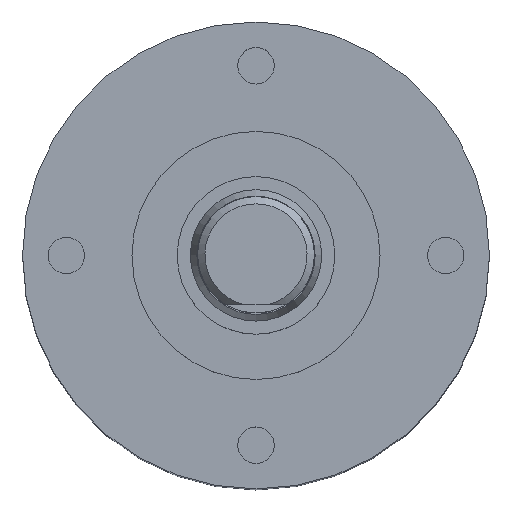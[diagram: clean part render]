
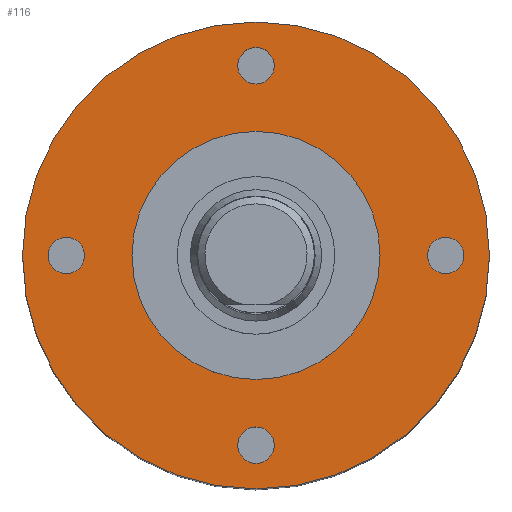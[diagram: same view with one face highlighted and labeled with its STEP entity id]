
A CAD part, top view. The second image highlights one B-rep face of the part: STEP entity #116.
In plain terms, the highlighted planar face has unit normal (0, 0, 1).
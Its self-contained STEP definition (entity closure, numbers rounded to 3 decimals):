
#34=PLANE('',#545);
#56=FACE_BOUND('',#182,.T.);
#57=FACE_BOUND('',#183,.T.);
#58=FACE_BOUND('',#184,.T.);
#59=FACE_BOUND('',#185,.T.);
#60=FACE_BOUND('',#186,.T.);
#61=FACE_BOUND('',#187,.T.);
#116=ADVANCED_FACE('',(#56,#57,#58,#59,#60,#61),#34,.T.);
#182=EDGE_LOOP('',(#267));
#183=EDGE_LOOP('',(#268));
#184=EDGE_LOOP('',(#269));
#185=EDGE_LOOP('',(#270));
#186=EDGE_LOOP('',(#271));
#187=EDGE_LOOP('',(#272));
#267=ORIENTED_EDGE('',*,*,#389,.T.);
#268=ORIENTED_EDGE('',*,*,#390,.T.);
#269=ORIENTED_EDGE('',*,*,#391,.T.);
#270=ORIENTED_EDGE('',*,*,#392,.T.);
#271=ORIENTED_EDGE('',*,*,#393,.F.);
#272=ORIENTED_EDGE('',*,*,#387,.T.);
#348=VERTEX_POINT('',#810);
#350=VERTEX_POINT('',#816);
#351=VERTEX_POINT('',#818);
#352=VERTEX_POINT('',#820);
#353=VERTEX_POINT('',#822);
#354=VERTEX_POINT('',#824);
#387=EDGE_CURVE('',#348,#348,#457,.T.);
#389=EDGE_CURVE('',#350,#350,#459,.T.);
#390=EDGE_CURVE('',#351,#351,#460,.T.);
#391=EDGE_CURVE('',#352,#352,#461,.T.);
#392=EDGE_CURVE('',#353,#353,#462,.T.);
#393=EDGE_CURVE('',#354,#354,#463,.T.);
#457=CIRCLE('',#536,16.);
#459=CIRCLE('',#540,1.25);
#460=CIRCLE('',#541,1.25);
#461=CIRCLE('',#542,1.25);
#462=CIRCLE('',#543,1.25);
#463=CIRCLE('',#544,8.5);
#536=AXIS2_PLACEMENT_3D('',#809,#638,#639);
#540=AXIS2_PLACEMENT_3D('',#815,#646,#647);
#541=AXIS2_PLACEMENT_3D('',#817,#648,#649);
#542=AXIS2_PLACEMENT_3D('',#819,#650,#651);
#543=AXIS2_PLACEMENT_3D('',#821,#652,#653);
#544=AXIS2_PLACEMENT_3D('',#823,#654,#655);
#545=AXIS2_PLACEMENT_3D('',#825,#656,#657);
#638=DIRECTION('',(0.,0.,1.));
#639=DIRECTION('',(1.,0.,0.));
#646=DIRECTION('',(0.,0.,-1.));
#647=DIRECTION('',(0.,-1.,0.));
#648=DIRECTION('',(0.,0.,-1.));
#649=DIRECTION('',(1.,0.,0.));
#650=DIRECTION('',(0.,0.,-1.));
#651=DIRECTION('',(0.,1.,0.));
#652=DIRECTION('',(0.,0.,-1.));
#653=DIRECTION('',(-1.,0.,0.));
#654=DIRECTION('',(0.,0.,1.));
#655=DIRECTION('',(1.,0.,0.));
#656=DIRECTION('',(0.,0.,1.));
#657=DIRECTION('',(1.,0.,0.));
#809=CARTESIAN_POINT('',(0.,0.,41.6));
#810=CARTESIAN_POINT('',(16.,0.,41.6));
#815=CARTESIAN_POINT('',(-13.,0.,41.6));
#816=CARTESIAN_POINT('',(-13.,-1.25,41.6));
#817=CARTESIAN_POINT('',(0.,-13.,41.6));
#818=CARTESIAN_POINT('',(1.25,-13.,41.6));
#819=CARTESIAN_POINT('',(13.,0.,41.6));
#820=CARTESIAN_POINT('',(13.,1.25,41.6));
#821=CARTESIAN_POINT('',(0.,13.,41.6));
#822=CARTESIAN_POINT('',(-1.25,13.,41.6));
#823=CARTESIAN_POINT('',(0.,0.,41.6));
#824=CARTESIAN_POINT('',(8.5,0.,41.6));
#825=CARTESIAN_POINT('',(0.,0.,41.6));
